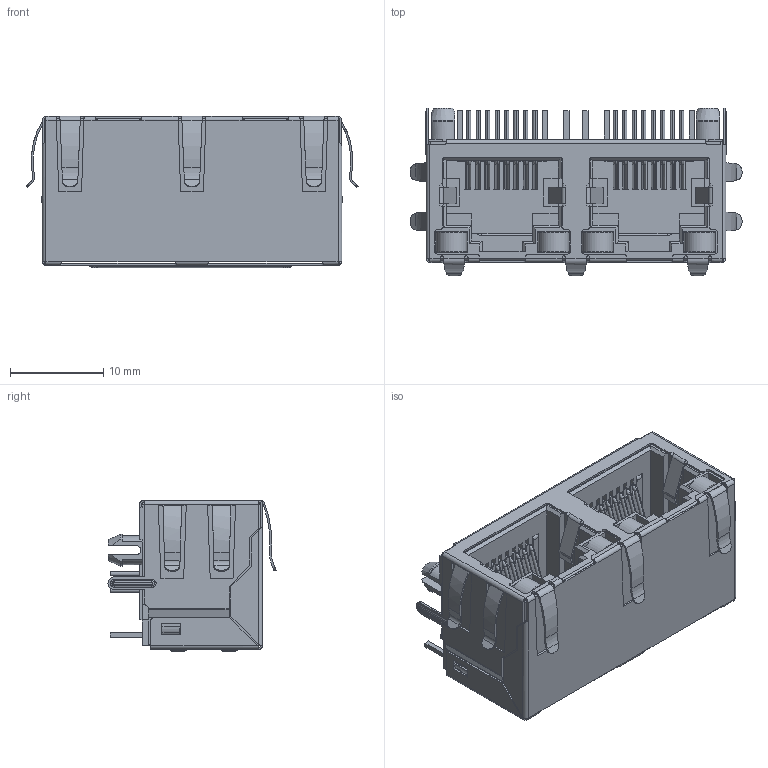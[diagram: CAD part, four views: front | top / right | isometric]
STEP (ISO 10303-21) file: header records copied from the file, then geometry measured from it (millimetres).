
FILE_DESCRIPTION((''),'2;1');
FILE_NAME('DGKYD561288DB1A1DY1027','2022-07-22T14:01:17',('Administrator'),(''),'CREO PARAMETRIC BY PTC INC, 2018400','CREO PARAMETRIC BY PTC INC, 2018400','');
FILE_SCHEMA(('CONFIG_CONTROL_DESIGN'));
Products named in the file (1): DGKYD561288DB1A1DY1027
Bounding box: 35.69 x 18.06 x 16.26 mm (x, y, z)
Volume: 2752.9 mm3; surface area: 9444.2 mm2
Topology: 9 solids, 11 shells, 1885 faces, 5363 edges, 3386 vertices
Faces by surface type: plane 1300, cylinder 409, bspline 90, torus 80, cone 4, sphere 2
Entity records: 63765 total; most frequent: CARTESIAN_POINT 14836, ORIENTED_EDGE 10714, DIRECTION 9632, EDGE_CURVE 5361, VECTOR 4012, LINE 4012, VERTEX_POINT 3386, AXIS2_PLACEMENT_3D 2810
